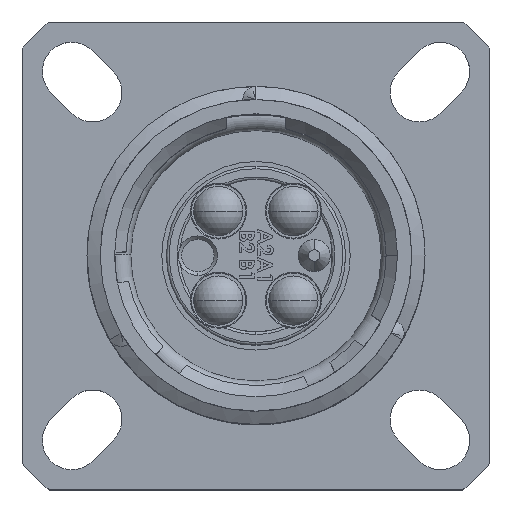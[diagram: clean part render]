
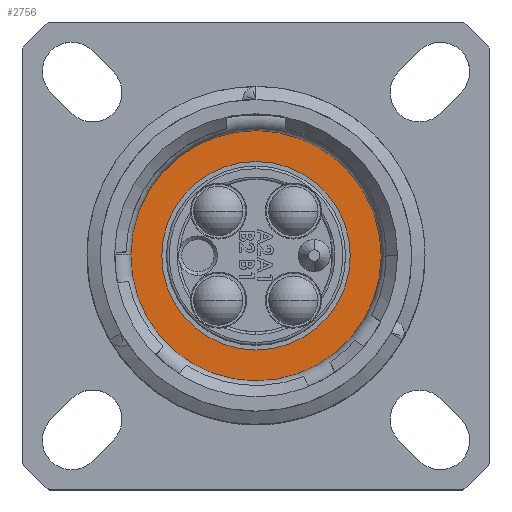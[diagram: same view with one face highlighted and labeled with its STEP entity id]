
A CAD part, top view. The second image highlights one B-rep face of the part: STEP entity #2756.
In plain terms, the highlighted planar face has unit normal (0, 0, 1).
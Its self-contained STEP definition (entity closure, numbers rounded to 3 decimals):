
#569 = FACE_BOUND ( 'NONE', #15278, .T. ) ;
#843 = DIRECTION ( 'NONE',  ( 0., 0., 1. ) ) ;
#894 = CARTESIAN_POINT ( 'NONE',  ( 5.27, 0., 12.649 ) ) ;
#909 = DIRECTION ( 'NONE',  ( 1., 0., 0. ) ) ;
#1256 = DIRECTION ( 'NONE',  ( 0., 0., 1. ) ) ;
#1261 = CIRCLE ( 'NONE', #12692, 5.27 ) ;
#2174 = EDGE_CURVE ( 'NONE', #14446, #5811, #9550, .T. ) ;
#2756 = ADVANCED_FACE ( 'NONE', ( #569, #6828 ), #15719, .F. ) ;
#3402 = AXIS2_PLACEMENT_3D ( 'NONE', #7858, #6873, #9357 ) ;
#4214 = AXIS2_PLACEMENT_3D ( 'NONE', #5114, #1256, #11417 ) ;
#5114 = CARTESIAN_POINT ( 'NONE',  ( 0., 0., 12.649 ) ) ;
#5670 = CARTESIAN_POINT ( 'NONE',  ( 0., 5.27, 12.649 ) ) ;
#5811 = VERTEX_POINT ( 'NONE', #14212 ) ;
#6828 = FACE_OUTER_BOUND ( 'NONE', #11906, .T. ) ;
#6873 = DIRECTION ( 'NONE',  ( 0., 0., 1. ) ) ;
#7285 = DIRECTION ( 'NONE',  ( 1., 0., 0. ) ) ;
#7721 = ORIENTED_EDGE ( 'NONE', *, *, #16453, .F. ) ;
#7858 = CARTESIAN_POINT ( 'NONE',  ( 0., 0., 12.649 ) ) ;
#8392 = VERTEX_POINT ( 'NONE', #894 ) ;
#8483 = CIRCLE ( 'NONE', #3402, 5.27 ) ;
#9316 = EDGE_CURVE ( 'NONE', #5811, #14446, #11907, .T. ) ;
#9357 = DIRECTION ( 'NONE',  ( 1., 0., 0. ) ) ;
#9550 = CIRCLE ( 'NONE', #11665, 8.42 ) ;
#9678 = DIRECTION ( 'NONE',  ( 0., 0., 1. ) ) ;
#9732 = EDGE_CURVE ( 'NONE', #16085, #8392, #1261, .T. ) ;
#10134 = ORIENTED_EDGE ( 'NONE', *, *, #9316, .T. ) ;
#11417 = DIRECTION ( 'NONE',  ( 1., 0., 0. ) ) ;
#11665 = AXIS2_PLACEMENT_3D ( 'NONE', #16169, #9678, #7285 ) ;
#11802 = AXIS2_PLACEMENT_3D ( 'NONE', #5670, #12213, #14472 ) ;
#11906 = EDGE_LOOP ( 'NONE', ( #14057, #10134 ) ) ;
#11907 = CIRCLE ( 'NONE', #4214, 8.42 ) ;
#12213 = DIRECTION ( 'NONE',  ( 0., 0., -1. ) ) ;
#12621 = CARTESIAN_POINT ( 'NONE',  ( -5.27, 0., 12.649 ) ) ;
#12692 = AXIS2_PLACEMENT_3D ( 'NONE', #14828, #843, #909 ) ;
#12916 = CARTESIAN_POINT ( 'NONE',  ( 8.42, 0., 12.649 ) ) ;
#12938 = ORIENTED_EDGE ( 'NONE', *, *, #9732, .F. ) ;
#14057 = ORIENTED_EDGE ( 'NONE', *, *, #2174, .T. ) ;
#14212 = CARTESIAN_POINT ( 'NONE',  ( -8.42, 0., 12.649 ) ) ;
#14446 = VERTEX_POINT ( 'NONE', #12916 ) ;
#14472 = DIRECTION ( 'NONE',  ( -1., 0., 0. ) ) ;
#14828 = CARTESIAN_POINT ( 'NONE',  ( 0., 0., 12.649 ) ) ;
#15278 = EDGE_LOOP ( 'NONE', ( #7721, #12938 ) ) ;
#15719 = PLANE ( 'NONE',  #11802 ) ;
#16085 = VERTEX_POINT ( 'NONE', #12621 ) ;
#16169 = CARTESIAN_POINT ( 'NONE',  ( 0., 0., 12.649 ) ) ;
#16453 = EDGE_CURVE ( 'NONE', #8392, #16085, #8483, .T. ) ;
